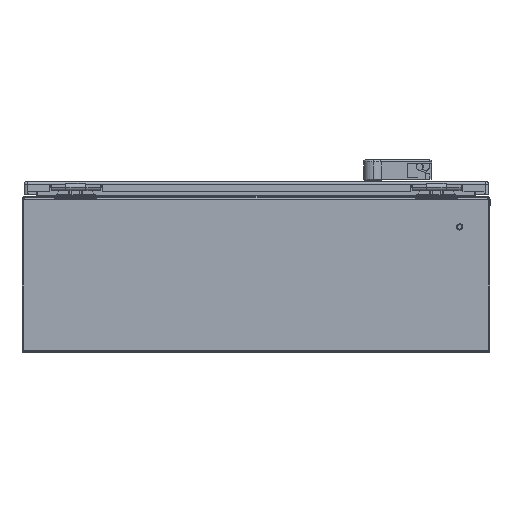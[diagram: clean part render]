
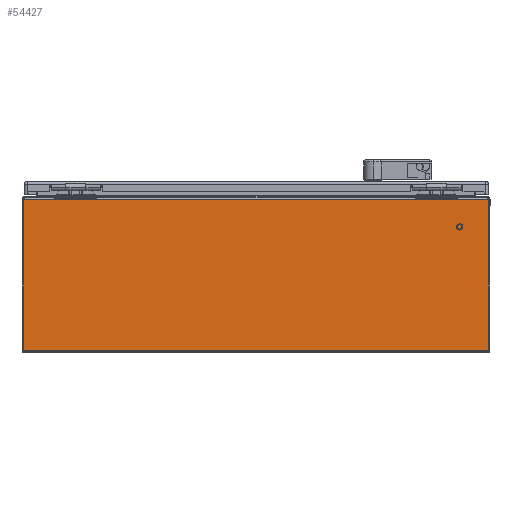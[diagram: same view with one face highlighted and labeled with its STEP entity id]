
A CAD part, left-side view. The second image highlights one B-rep face of the part: STEP entity #54427.
In plain terms, the highlighted planar face has unit normal (-1, 0, 0).
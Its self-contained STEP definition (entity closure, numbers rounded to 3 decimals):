
#2705 = LINE ( 'NONE', #11398, #2751 ) ;
#2722 = LINE ( 'NONE', #11365, #2729 ) ;
#2729 = VECTOR ( 'NONE', #11366, 39.37 ) ;
#2739 = LINE ( 'NONE', #11394, #2741 ) ;
#2741 = VECTOR ( 'NONE', #11395, 39.37 ) ;
#2749 = LINE ( 'NONE', #11418, #2758 ) ;
#2751 = VECTOR ( 'NONE', #11401, 39.37 ) ;
#2758 = VECTOR ( 'NONE', #11419, 39.37 ) ;
#11365 = CARTESIAN_POINT ( 'NONE',  ( -12.206, 11.944, 0.055 ) ) ;
#11366 = DIRECTION ( 'NONE',  ( 0., 0., 1. ) ) ;
#11394 = CARTESIAN_POINT ( 'NONE',  ( -12.206, 12., 0.115 ) ) ;
#11395 = DIRECTION ( 'NONE',  ( 0., 1., 0. ) ) ;
#11398 = CARTESIAN_POINT ( 'NONE',  ( -12.206, -11.944, 8. ) ) ;
#11401 = DIRECTION ( 'NONE',  ( 0., 0., 1. ) ) ;
#11418 = CARTESIAN_POINT ( 'NONE',  ( -12.206, -11.944, 7.855 ) ) ;
#11419 = DIRECTION ( 'NONE',  ( 0., 1., 0. ) ) ;
#24969 = AXIS2_PLACEMENT_3D ( 'NONE', #28123, #28133, #28134 ) ;
#26094 = CARTESIAN_POINT ( 'NONE',  ( -12.206, 11.944, 7.855 ) ) ;
#26338 = CARTESIAN_POINT ( 'NONE',  ( -12.206, -11.944, 0.115 ) ) ;
#26408 = CARTESIAN_POINT ( 'NONE',  ( -12.206, -11.944, 7.855 ) ) ;
#26802 = CARTESIAN_POINT ( 'NONE',  ( -12.206, 11.944, 0.115 ) ) ;
#28123 = CARTESIAN_POINT ( 'NONE',  ( -12.206, 12., 8. ) ) ;
#28128 = PLANE ( 'NONE',  #24969 ) ;
#28133 = DIRECTION ( 'NONE',  ( 1., 0., 0. ) ) ;
#28134 = DIRECTION ( 'NONE',  ( 0., 0., -1. ) ) ;
#48618 = VERTEX_POINT ( 'NONE', #26802 ) ;
#52744 = VERTEX_POINT ( 'NONE', #26408 ) ;
#52811 = VERTEX_POINT ( 'NONE', #26338 ) ;
#53054 = VERTEX_POINT ( 'NONE', #26094 ) ;
#54427 = ADVANCED_FACE ( 'NONE', ( #57166 ), #28128, .F. ) ;
#57166 = FACE_OUTER_BOUND ( 'NONE', #71587, .T. ) ;
#65487 = EDGE_CURVE ( 'NONE', #48618, #53054, #2722, .T. ) ;
#65493 = EDGE_CURVE ( 'NONE', #52811, #48618, #2739, .T. ) ;
#65496 = EDGE_CURVE ( 'NONE', #52811, #52744, #2705, .T. ) ;
#65500 = EDGE_CURVE ( 'NONE', #52744, #53054, #2749, .T. ) ;
#68100 = ORIENTED_EDGE ( 'NONE', *, *, #65500, .T. ) ;
#68101 = ORIENTED_EDGE ( 'NONE', *, *, #65487, .F. ) ;
#68103 = ORIENTED_EDGE ( 'NONE', *, *, #65493, .F. ) ;
#68106 = ORIENTED_EDGE ( 'NONE', *, *, #65496, .T. ) ;
#71587 = EDGE_LOOP ( 'NONE', ( #68100, #68101, #68103, #68106 ) ) ;
